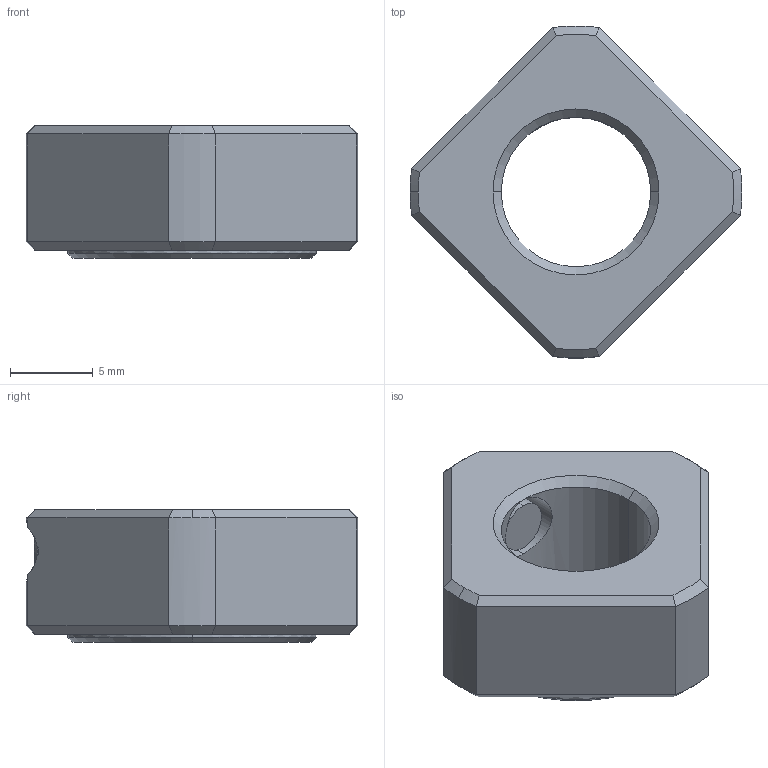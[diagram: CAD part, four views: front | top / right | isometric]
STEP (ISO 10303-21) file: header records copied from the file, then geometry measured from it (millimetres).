
FILE_DESCRIPTION (( 'STEP AP203' ), '1' );
FILE_NAME ('RN10.STEP', '2009-05-27T00:58:12', ( '冠犁泅' ), ( '俺惯何' ), 'SwSTEP 2.0', 'SolidWorks 2007', '' );
FILE_SCHEMA (( 'CONFIG_CONTROL_DESIGN' ));
Length unit declared in the file: millimetre
Products named in the file (4): RN10; RN10_NUT_晦獄 撲薑; SET PIECE_白3.1x1_晦獄 撲薑; Socket Set Screw Flat Point_AM_B18.3.6M - M4 x 0.7 x 4 Hex Socket Flat Pt. SS --N_B18.3.6M - M4 x 0.7 x 4 Hex Socket Flat Pt. SS --N
Assembly tree (3 placements, depth 2):
  RN10
    Socket Set Screw Flat Point_AM_B18.3.6M - M4 x 0.7 x 4 Hex Socket Flat Pt. SS --N_B18.3.6M - M4 x 0.7 x 4 Hex Socket Flat Pt. SS --N
    SET PIECE_白3.1x1_晦獄 撲薑
    RN10_NUT_晦獄 撲薑
Bounding box: 20 x 19.99 x 8 mm (x, y, z)
Volume: 1399.6 mm3; surface area: 1152 mm2
Topology: 3 solids, 3 shells, 66 faces, 150 edges, 89 vertices
Faces by surface type: plane 29, cone 20, cylinder 17
Entity records: 2313 total; most frequent: CARTESIAN_POINT 443, DIRECTION 321, ORIENTED_EDGE 296, EDGE_CURVE 148, AXIS2_PLACEMENT_3D 125, VERTEX_POINT 87, LINE 71, VECTOR 71
